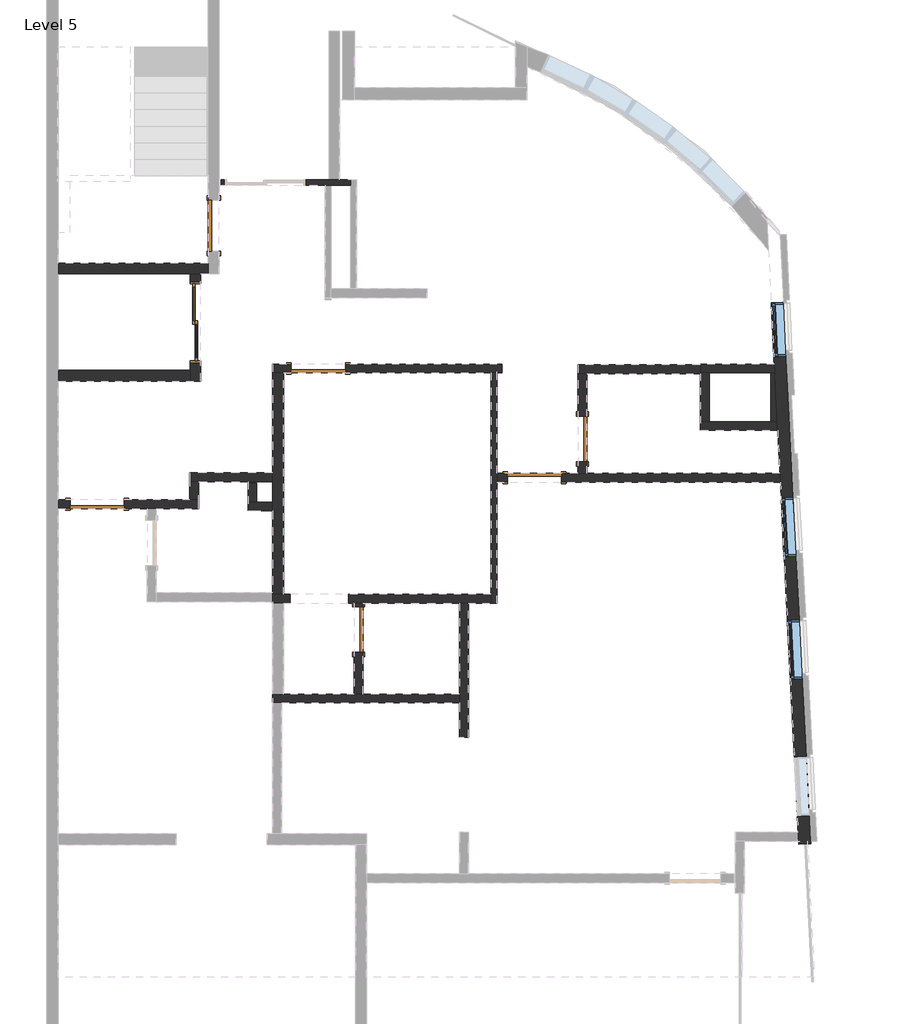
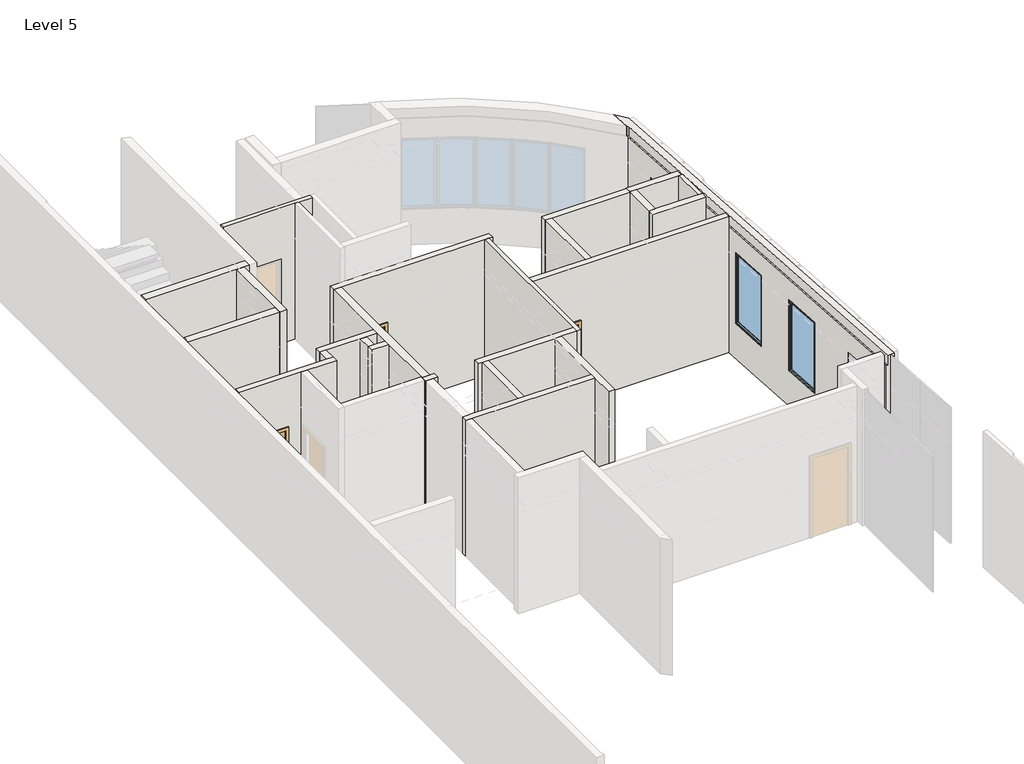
# One storey, part 3 of 5: 25 walls, 7 doors, 3 windows.
"""IFC4 building model written with IfcOpenShell, lengths in millimetres."""

from ifc_helpers import new_model, si_unit, frame, origin, place, context, project, spatial, polyline, circle_curve, outline, extrude, faceted_brep, transform, mapped, element, save
from ifc_brep_helpers import plane_surface, cylinder_surface, revolved_surface, advanced_brep
from components import m_single_flush_0762_x_2134mm_1533e4c5, m_single_flush_0762_x_2134mm_8c18b9de, m_single_flush_0864_x_2032mm_7823a673, m_single_flush_0915_x_2032mm_11c03dd0, m_single_flush_0915_x_2134mm_138fd904, sliding_door_2_panel_aus_f73f6a40, m_fixed_0915_x_1830mm_5d6e8bc1, m_fixed_1000_x_1830mm_2_3397196e

model = new_model("IFC4")

# Units and contexts
model_context = context("Model", 3, world=origin())
ifc_project = project(units=[si_unit("LENGTHUNIT", "METRE", prefix="MILLI")], contexts=[model_context])

# Site, building, storey
site = spatial("IfcSite", under=ifc_project)
building = spatial("IfcBuilding", under=site)
storey = spatial("IfcBuildingStorey", under=building, Name="Level 5", Elevation=18500.0)

# Doors
placement = place(None, origin())
m_single_flush_0762_x_2134mm_shape = m_single_flush_0762_x_2134mm_1533e4c5(model_context)
element("IfcDoor", 1, ObjectType="M_Single-Flush : 0762 x 2134mm", at=placement, inside=storey, context=model_context, shape_type="MappedRepresentation", body=[
    mapped(m_single_flush_0762_x_2134mm_shape, transform((8794.9578779, 5730.2927029, 18500.0), x_axis=(0.0, -1.0, 0.0), y_axis=(1.0, 0.0, 0.0), z_axis=(0.0, 0.0, 1.0))),
])
m_single_flush_0762_x_2134mm_2_shape = m_single_flush_0762_x_2134mm_8c18b9de(model_context)
element("IfcDoor", 2, ObjectType="M_Single-Flush : 0762 x 2134mm", at=placement, inside=storey, context=model_context, shape_type="MappedRepresentation", body=[
    mapped(m_single_flush_0762_x_2134mm_2_shape, transform((5014.9578779, 2515.8778064, 18500.0), x_axis=(0.0, 1.0, 0.0), y_axis=(-1.0, 0.0, 0.0), z_axis=(0.0, 0.0, 1.0))),
])
m_single_flush_0864_x_2032mm_shape = m_single_flush_0864_x_2032mm_7823a673(model_context)
element("IfcDoor", 3, ObjectType="M_Single-Flush : 0864 x 2032mm", at=placement, inside=storey, context=model_context, shape_type="MappedRepresentation", body=[
    mapped(m_single_flush_0864_x_2032mm_shape, transform((2571.8607589, 9328.8748746, 18500.0), x_axis=(0.0, -1.0, 0.0), y_axis=(1.0, 0.0, 0.0), z_axis=(0.0, 0.0, 1.0))),
])
m_single_flush_0915_x_2032mm_shape = m_single_flush_0915_x_2032mm_11c03dd0(model_context)
element("IfcDoor", 4, ObjectType="M_Single-Flush : 0915 x 2032mm", at=placement, inside=storey, context=model_context, shape_type="MappedRepresentation", body=[
    mapped(m_single_flush_0915_x_2032mm_shape, transform((7987.4578779, 5074.2927029, 18500.0), x_axis=(-1.0, 0.0, 0.0), y_axis=(0.0, -1.0, 0.0), z_axis=(0.0, 0.0, 1.0))),
])
m_single_flush_0915_x_2134mm_shape = m_single_flush_0915_x_2134mm_138fd904(model_context)
element("IfcDoor", 5, ObjectType="M_Single-Flush : 0915 x 2134mm", at=placement, inside=storey, context=model_context, shape_type="MappedRepresentation", body=[
    mapped(m_single_flush_0915_x_2134mm_shape, transform((607.4578696, 4631.8830582, 18500.0), x_axis=(-1.0, 0.0, 0.0), y_axis=(0.0, -1.0, 0.0), z_axis=(0.0, 0.0, 1.0))),
])
element("IfcDoor", 6, ObjectType="M_Single-Flush : 0915 x 2134mm", at=placement, inside=storey, context=model_context, shape_type="MappedRepresentation", body=[
    mapped(m_single_flush_0915_x_2134mm_shape, transform((4337.4578779, 6919.2927825, 18500.0), x_axis=(-1.0, 0.0, 0.0), y_axis=(0.0, -1.0, 0.0), z_axis=(0.0, 0.0, 1.0))),
])
sliding_door_2_panel_aus_shape = sliding_door_2_panel_aus_f73f6a40(model_context)
element("IfcDoor", 7, ObjectType="Sliding Door - 2 Panel (AUS) : elavator door", at=placement, inside=storey, context=model_context, shape_type="MappedRepresentation", body=[
    mapped(sliding_door_2_panel_aus_shape, transform((2260.0654712, 7782.6328884, 18500.0), x_axis=(0.0, -1.0, 0.0), y_axis=(1.0, 0.0, 0.0), z_axis=(0.0, 0.0, 1.0))),
])

# Walls
element("IfcWall", 8, ObjectType="Generic - 15cm-granit&gypsum", at=placement, inside=storey, context=model_context, shape_type="SweptSolid", body=[
    extrude(outline(polyline([(5349.2927029, 20634.0), (5349.2927029, 18500.0), (5149.2927029, 18500.0), (5149.2927029, 22000.0), (6830.3684627, 22000.0), (6830.3684627, 18500.0), (6111.2927029, 18500.0), (6111.2927029, 20634.0), (5349.2927029, 20634.0)])), frame((8719.9578779, 0.0, 0.0), z_axis=(1.0, 0.0, 0.0), x_axis=(0.0, 1.0, 0.0)), (0.0, 0.0, 1.0), 150.0),
])
element("IfcWall", 9, ObjectType="Generic - 15cm-gypsu-2boith", at=placement, inside=storey, context=model_context, shape_type="Brep", body=[
    faceted_brep([(12034.2942913, 6994.2927825, 18500.0), (10782.6929286, 6994.2927825, 18500.0), (10782.6929286, 6994.2927825, 22000.0), (12034.2942913, 6994.2927825, 22000.0), (12041.9294162, 6844.2927825, 18500.0), (12041.9294162, 6844.2927825, 22000.0), (11974.9265269, 6844.2927825, 22000.0), (10938.049349, 6844.2927825, 22000.0), (10788.049349, 6844.2927825, 22000.0), (10782.6929286, 6844.2927825, 22000.0), (10782.6929286, 6844.2927825, 18500.0), (10788.049349, 6844.2927825, 18500.0), (10938.049349, 6844.2927825, 18500.0), (11974.9265269, 6844.2927825, 18500.0), (10782.6929286, 6980.3684627, 18500.0), (10782.6929286, 6980.3684627, 22000.0)], [[[0, 1, 2, 3]], [[4, 5, 6, 7, 8, 9, 10, 11, 12, 13]], [[1, 0, 4, 13, 12, 11, 10, 14]], [[2, 1, 14, 10, 9, 15]], [[3, 2, 15, 9, 8, 7, 6, 5]], [[0, 3, 5, 4]]]),
])
element("IfcWall", 10, ObjectType="Generic - 15cm-granit&gypsum", at=placement, inside=storey, context=model_context, shape_type="Brep", body=[
    faceted_brep([(7529.9578779, 5149.2927029, 20532.0), (7529.9578779, 5149.2927029, 18500.0), (7349.9578779, 5149.2927029, 18500.0), (7349.9578779, 5149.2927029, 22000.0), (8719.9578779, 5149.2927029, 22000.0), (8869.9578779, 5149.2927029, 22000.0), (12128.2063311, 5149.2927029, 22000.0), (12128.2063311, 5149.2927029, 18500.0), (8869.9578779, 5149.2927029, 18500.0), (8719.9578779, 5149.2927029, 18500.0), (8444.9578779, 5149.2927029, 18500.0), (8444.9578779, 5149.2927029, 20532.0), (7349.9578779, 4999.2927029, 18500.0), (7529.9578779, 4999.2927029, 18500.0), (7529.9578779, 4999.2927029, 20532.0), (8444.9578779, 4999.2927029, 20532.0), (8444.9578779, 4999.2927029, 18500.0), (12135.8414559, 4999.2927029, 18500.0), (12135.8414559, 4999.2927029, 22000.0), (7349.9578779, 4999.2927029, 22000.0)], [[[0, 1, 2, 3, 4, 5, 6, 7, 8, 9, 10, 11]], [[12, 13, 14, 15, 16, 17, 18, 19]], [[2, 1, 13, 12]], [[10, 9, 8, 7, 17, 16]], [[6, 5, 4, 3, 19, 18]], [[7, 6, 18, 17]], [[3, 2, 12, 19]], [[14, 13, 1, 0]], [[15, 14, 0, 11]], [[16, 15, 11, 10]]]),
])
element("IfcWall", 11, ObjectType="Generic - 10cm-gypsu-2boith", at=placement, inside=storey, context=model_context, shape_type="Brep", body=[
    faceted_brep([(7249.9578779, 6844.2927825, 18500.0), (7249.9578779, 3106.8778064, 18500.0), (7249.9578779, 2956.8778064, 18500.0), (7249.9578779, 2956.8778064, 22000.0), (7249.9578779, 3106.8778064, 22000.0), (7249.9578779, 6844.2927825, 22000.0), (7349.9578779, 6844.2927825, 18500.0), (7349.9578779, 6844.2927825, 22000.0), (7349.9578779, 5149.2927029, 22000.0), (7349.9578779, 4999.2927029, 22000.0), (7349.9578779, 2956.8778064, 22000.0), (7349.9578779, 2956.8778064, 18500.0), (7349.9578779, 4999.2927029, 18500.0), (7349.9578779, 5149.2927029, 18500.0)], [[[0, 1, 2, 3, 4, 5]], [[6, 7, 8, 9, 10, 11, 12, 13]], [[2, 1, 0, 6, 13, 12, 11]], [[5, 4, 3, 10, 9, 8, 7]], [[3, 2, 11, 10]], [[0, 5, 7, 6]]]),
])
element("IfcWall", 12, ObjectType="Generic - 15cm-granit&gypsum", at=placement, inside=storey, context=model_context, shape_type="Brep", body=[
    faceted_brep([(7249.9578779, 3106.8778064, 18500.0), (4849.9578779, 3106.8778064, 18500.0), (4849.9578779, 3106.8778064, 22000.0), (7249.9578779, 3106.8778064, 22000.0), (7249.9578779, 2956.8778064, 18500.0), (7249.9578779, 2956.8778064, 22000.0), (6869.9578779, 2956.8778064, 22000.0), (6719.9578779, 2956.8778064, 22000.0), (5089.9578779, 2956.8778064, 22000.0), (4939.9578779, 2956.8778064, 22000.0), (4849.9578779, 2956.8778064, 22000.0), (4849.9578779, 2956.8778064, 18500.0), (4939.9578779, 2956.8778064, 18500.0), (5089.9578779, 2956.8778064, 18500.0), (6719.9578779, 2956.8778064, 18500.0), (6869.9578779, 2956.8778064, 18500.0)], [[[0, 1, 2, 3]], [[4, 5, 6, 7, 8, 9, 10, 11, 12, 13, 14, 15]], [[1, 0, 4, 15, 14, 13, 12, 11]], [[2, 1, 11, 10]], [[3, 2, 10, 9, 8, 7, 6, 5]], [[0, 3, 5, 4]]]),
])
element("IfcWall", 13, ObjectType="Generic - 15cm-granit&gypsum", at=placement, inside=storey, context=model_context, shape_type="Brep", body=[
    faceted_brep([(6719.9578779, 1426.8778064, 18500.0), (5089.9578779, 1426.8778064, 18500.0), (4939.9578779, 1426.8778064, 18500.0), (3749.9578779, 1426.8778064, 18500.0), (3569.9578779, 1426.8778064, 18500.0), (3569.9578779, 1426.8778064, 22000.0), (3749.9578779, 1426.8778064, 22000.0), (4939.9578779, 1426.8778064, 22000.0), (5089.9578779, 1426.8778064, 22000.0), (6719.9578779, 1426.8778064, 22000.0), (6719.9578779, 1276.8778064, 18500.0), (6719.9578779, 1276.8778064, 22000.0), (3719.9578779, 1276.8778064, 22000.0), (3569.9578779, 1276.8778064, 22000.0), (3569.9578779, 1276.8778064, 18500.0), (3719.9578779, 1276.8778064, 18500.0)], [[[0, 1, 2, 3, 4, 5, 6, 7, 8, 9]], [[10, 11, 12, 13, 14, 15]], [[4, 3, 2, 1, 0, 10, 15, 14]], [[9, 8, 7, 6, 5, 13, 12, 11]], [[0, 9, 11, 10]], [[5, 4, 14, 13]]]),
])
element("IfcWall", 14, ObjectType="Generic - 15cm-granit&gypsum", at=placement, inside=storey, context=model_context, shape_type="Brep", body=[
    faceted_brep([(6719.9578779, 2956.8778064, 18500.0), (6719.9578779, 1426.8778064, 18500.0), (6719.9578779, 1276.8778064, 18500.0), (6719.9578779, 696.0452702, 18500.0), (6719.9578779, 696.0452702, 22000.0), (6719.9578779, 1276.8778064, 22000.0), (6719.9578779, 1426.8778064, 22000.0), (6719.9578779, 2956.8778064, 22000.0), (6869.9578779, 2956.8778064, 18500.0), (6869.9578779, 2956.8778064, 22000.0), (6869.9578779, 696.0452702, 22000.0), (6869.9578779, 696.0452702, 18500.0)], [[[0, 1, 2, 3, 4, 5, 6, 7]], [[8, 9, 10, 11]], [[3, 2, 1, 0, 8, 11]], [[4, 3, 11, 10]], [[7, 6, 5, 4, 10, 9]], [[0, 7, 9, 8]]]),
])
element("IfcWall", 15, ObjectType="Generic - 18cm-gypsu-2boith 2", at=placement, inside=storey, context=model_context, shape_type="Brep", body=[
    faceted_brep([(3569.9578779, 6844.2927825, 18500.0), (3569.9578779, 5156.8860701, 18500.0), (3569.9578779, 5006.8860701, 18500.0), (3569.9578779, 4666.8864855, 18500.0), (3569.9578779, 4516.8864855, 18500.0), (3569.9578779, 3106.8778064, 18500.0), (3569.9578779, 3106.8778064, 22000.0), (3569.9578779, 4516.8864855, 22000.0), (3569.9578779, 4666.8864855, 22000.0), (3569.9578779, 5006.8860701, 22000.0), (3569.9578779, 5156.8860701, 22000.0), (3569.9578779, 6844.2927825, 22000.0), (3749.9578779, 6844.2927825, 18500.0), (3749.9578779, 6844.2927825, 22000.0), (3749.9578779, 3106.8778064, 22000.0), (3749.9578779, 3106.8778064, 18500.0)], [[[0, 1, 2, 3, 4, 5, 6, 7, 8, 9, 10, 11]], [[12, 13, 14, 15]], [[5, 4, 3, 2, 1, 0, 12, 15]], [[11, 10, 9, 8, 7, 6, 14, 13]], [[6, 5, 15, 14]], [[0, 11, 13, 12]]]),
])
element("IfcWall", 16, ObjectType="Generic - 10cm-gypsu-2boith", at=placement, inside=storey, context=model_context, shape_type="Brep", body=[
    faceted_brep([(2699.9587442, 10106.8748959, 18500.0), (2699.9587442, 10106.8748959, 22000.0), (4519.9587688, 10106.8748959, 22000.0), (4699.9587688, 10106.8748959, 22000.0), (4879.9402277, 10106.8748959, 22000.0), (4879.9402277, 10106.8748959, 18500.0), (4699.9587688, 10106.8748959, 18500.0), (4519.9587688, 10106.8748959, 18500.0), (4129.6769958, 10106.8748959, 18500.0), (4129.6769958, 10106.8748959, 20683.0), (2749.6769958, 10106.8748959, 20683.0), (2749.6769958, 10106.8748959, 18500.0), (2699.9587442, 10006.8748959, 22000.0), (2699.9587442, 10006.8748959, 18500.0), (2749.6769958, 10006.8748959, 18500.0), (2749.6769958, 10006.8748959, 20683.0), (4129.6769958, 10006.8748959, 20683.0), (4129.6769958, 10006.8748959, 18500.0), (4449.2779066, 10006.8748959, 18500.0), (4549.2779066, 10006.8748959, 18500.0), (4879.9402277, 10006.8748959, 18500.0), (4879.9402277, 10006.8748959, 22000.0), (4549.2779066, 10006.8748959, 22000.0), (4449.2779066, 10006.8748959, 22000.0)], [[[0, 1, 2, 3, 4, 5, 6, 7, 8, 9, 10, 11]], [[12, 13, 14, 15, 16, 17, 18, 19, 20, 21, 22, 23]], [[13, 0, 11, 14]], [[5, 20, 19, 18, 17, 8, 7, 6]], [[1, 0, 13, 12]], [[4, 3, 2, 1, 12, 23, 22, 21]], [[5, 4, 21, 20]], [[16, 9, 8, 17]], [[9, 16, 15, 10]], [[10, 15, 14, 11]]]),
])
element("IfcWall", 17, ObjectType="Generic - 18cm-gypsu-2boith 2", at=placement, inside=storey, context=model_context, shape_type="SweptSolid", body=[
    extrude(outline(polyline([(-50.0421304, 8696.8748746), (2481.8607589, 8696.8748746), (2481.8607589, 8516.8748746), (-50.0421304, 8516.8748746), (-50.0421304, 8696.8748746)])), frame((0.0, 0.0, 18500.0), z_axis=(0.0, 0.0, 1.0), x_axis=(1.0, 0.0, 0.0)), (0.0, 0.0, 1.0), 3500.0),
])
element("IfcWall", 18, ObjectType="Generic - 18cm-gypsu-2boith 2", at=placement, inside=storey, context=model_context, shape_type="Brep", body=[
    faceted_brep([(2170.0654712, 6706.8748838, 22000.0), (2170.0654712, 6886.8748838, 22000.0), (2170.0654712, 8506.8748906, 22000.0), (2170.0654712, 8506.8748906, 18500.0), (2170.0654712, 8386.8748872, 18500.0), (2170.0654712, 8386.8748872, 20683.0), (2170.0654712, 7006.8748872, 20683.0), (2170.0654712, 7006.8748872, 18500.0), (2170.0654712, 6886.8748838, 18500.0), (2170.0654712, 6706.8748838, 18500.0), (2350.0654712, 8506.8748906, 22000.0), (2350.0654712, 6706.8748838, 22000.0), (2350.0654712, 6706.8748838, 18500.0), (2350.0654712, 7006.8748872, 18500.0), (2350.0654712, 7006.8748872, 20683.0), (2350.0654712, 8386.8748872, 20683.0), (2350.0654712, 8386.8748872, 18500.0), (2350.0654712, 8506.8748906, 18500.0)], [[[0, 1, 2, 3, 4, 5, 6, 7, 8, 9]], [[10, 11, 12, 13, 14, 15, 16, 17]], [[3, 17, 16, 4]], [[12, 9, 8, 7, 13]], [[2, 1, 0, 11, 10]], [[3, 2, 10, 17]], [[0, 9, 12, 11]], [[15, 5, 4, 16]], [[5, 15, 14, 6]], [[6, 14, 13, 7]]]),
])
element("IfcWall", 19, ObjectType="Generic - 18cm-gypsu-2boith 2", at=placement, inside=storey, context=model_context, shape_type="SweptSolid", body=[
    extrude(outline(polyline([(-50.0421304, 6886.8748838), (2170.0654712, 6886.8748838), (2170.0654712, 6706.8748838), (-50.0421304, 6706.8748838), (-50.0421304, 6886.8748838)])), frame((0.0, 0.0, 18500.0), z_axis=(0.0, 0.0, 1.0), x_axis=(1.0, 0.0, 0.0)), (0.0, 0.0, 1.0), 3500.0),
])
element("IfcWall", 20, ObjectType="Generic - 15cm-granit&gypsum", at=placement, inside=storey, context=model_context, shape_type="Brep", body=[
    faceted_brep([(12077.3702251, 6025.0705769, 18500.0), (12074.9265269, 6025.0705769, 18500.0), (11974.9265269, 6025.0705769, 18500.0), (10938.049349, 6025.0705769, 18500.0), (10788.049349, 6025.0705769, 18500.0), (10788.049349, 6025.0705769, 22000.0), (10938.049349, 6025.0705769, 22000.0), (11974.9265269, 6025.0705769, 22000.0), (12074.9265269, 6025.0705769, 22000.0), (12077.3702251, 6025.0705769, 22000.0), (12077.3702251, 5875.0705769, 18500.0), (12077.3702251, 5875.0705769, 22000.0), (10788.049349, 5875.0705769, 22000.0), (10788.049349, 5875.0705769, 18500.0)], [[[0, 1, 2, 3, 4, 5, 6, 7, 8, 9]], [[10, 11, 12, 13]], [[4, 3, 2, 1, 0, 10, 13]], [[9, 8, 7, 6, 5, 12, 11]], [[0, 9, 11, 10]], [[5, 4, 13, 12]]]),
])
element("IfcWall", 21, ObjectType="Generic - 15cm-granit&gypsum", at=placement, inside=storey, context=model_context, shape_type="SweptSolid", body=[
    extrude(outline(polyline([(10938.049349, 6844.2927825), (10938.049349, 6025.0705769), (10788.049349, 6025.0705769), (10788.049349, 6844.2927825), (10938.049349, 6844.2927825)])), frame((0.0, 0.0, 18500.0), z_axis=(0.0, 0.0, 1.0), x_axis=(1.0, 0.0, 0.0)), (0.0, 0.0, 1.0), 3500.0),
])
element("IfcWall", 22, ObjectType="Generic - 10cm-gypsu-2boith", at=placement, inside=storey, context=model_context, shape_type="Brep", body=[
    faceted_brep([(12074.9265269, 6025.0705769, 18500.0), (12074.9265269, 6844.2927825, 18500.0), (12074.9265269, 6844.2927825, 22000.0), (12074.9265269, 6025.0705769, 22000.0), (11974.9265269, 6025.0705769, 18500.0), (11974.9265269, 6025.0705769, 22000.0), (11974.9265269, 6844.2927825, 22000.0), (11974.9265269, 6844.2927825, 18500.0), (12041.9294162, 6844.2927825, 18500.0), (12041.9294162, 6844.2927825, 22000.0)], [[[0, 1, 2, 3]], [[4, 5, 6, 7]], [[1, 0, 4, 7, 8]], [[3, 2, 9, 6, 5]], [[0, 3, 5, 4]], [[2, 1, 8, 7, 6, 9]]]),
])
element("IfcWall", 23, ObjectType="Generic - 15cm-granit&gypsum", at=placement, inside=storey, context=model_context, shape_type="SweptSolid", body=[
    extrude(outline(polyline([(2956.8778064, 18500.0), (2896.8778064, 18500.0), (2896.8778064, 20634.0), (2134.8778064, 20634.0), (2134.8778064, 18500.0), (1426.8778064, 18500.0), (1426.8778064, 22000.0), (2956.8778064, 22000.0), (2956.8778064, 18500.0)])), frame((4939.9578779, 0.0, 0.0), z_axis=(1.0, 0.0, 0.0), x_axis=(0.0, 1.0, 0.0)), (0.0, 0.0, 1.0), 150.0),
])
element("IfcWall", 24, ObjectType="Generic - 15cm-granit&gypsum", at=placement, inside=storey, context=model_context, shape_type="Brep", body=[
    faceted_brep([(-50.0421304, 4556.8830582, 18500.0), (149.9578696, 4556.8830582, 18500.0), (149.9578696, 4556.8830582, 20634.0), (1064.9578696, 4556.8830582, 20634.0), (1064.9578696, 4556.8830582, 18500.0), (1449.9578776, 4556.8830582, 18500.0), (1599.9578776, 4556.8830582, 18500.0), (2319.9578779, 4556.8830582, 18500.0), (2319.9578779, 4556.8830582, 22000.0), (1599.9578776, 4556.8830582, 22000.0), (1449.9578776, 4556.8830582, 22000.0), (-50.0421304, 4556.8830582, 22000.0), (149.9578696, 4706.8830582, 20634.0), (149.9578696, 4706.8830582, 18500.0), (-50.0421304, 4706.8830582, 18500.0), (-50.0421304, 4706.8830582, 22000.0), (2169.9578779, 4706.8830582, 22000.0), (2319.9578779, 4706.8830582, 22000.0), (2319.9578779, 4706.8830582, 18500.0), (2169.9578779, 4706.8830582, 18500.0), (1064.9578696, 4706.8830582, 18500.0), (1064.9578696, 4706.8830582, 20634.0)], [[[0, 1, 2, 3, 4, 5, 6, 7, 8, 9, 10, 11]], [[12, 13, 14, 15, 16, 17, 18, 19, 20, 21]], [[14, 13, 1, 0]], [[20, 19, 18, 7, 6, 5, 4]], [[11, 10, 9, 8, 17, 16, 15]], [[0, 11, 15, 14]], [[8, 7, 18, 17]], [[2, 1, 13, 12]], [[3, 2, 12, 21]], [[4, 3, 21, 20]]]),
])
element("IfcWall", 25, ObjectType="Generic - 15cm-granit&gypsum", at=placement, inside=storey, context=model_context, shape_type="Brep", body=[
    faceted_brep([(2169.9578779, 5006.8860701, 18500.0), (2319.9578779, 5006.8860701, 18500.0), (3569.9578779, 5006.8860701, 18500.0), (3569.9578779, 5006.8860701, 22000.0), (2319.9578779, 5006.8860701, 22000.0), (2169.9578779, 5006.8860701, 22000.0), (2169.9578779, 5156.8860701, 18500.0), (2169.9578779, 5156.8860701, 22000.0), (3569.9578779, 5156.8860701, 22000.0), (3569.9578779, 5156.8860701, 18500.0)], [[[0, 1, 2, 3, 4, 5]], [[6, 7, 8, 9]], [[2, 1, 0, 6, 9]], [[5, 4, 3, 8, 7]], [[0, 5, 7, 6]], [[3, 2, 9, 8]]]),
])
element("IfcWall", 26, ObjectType="Generic - 15cm-granit&gypsum", at=placement, inside=storey, context=model_context, shape_type="SweptSolid", body=[
    extrude(outline(polyline([(2319.9578779, 5006.8860701), (2319.9578779, 4706.8830582), (2169.9578779, 4706.8830582), (2169.9578779, 5006.8860701), (2319.9578779, 5006.8860701)])), frame((0.0, 0.0, 18500.0), z_axis=(0.0, 0.0, 1.0), x_axis=(1.0, 0.0, 0.0)), (0.0, 0.0, 1.0), 3500.0),
])
element("IfcWall", 27, ObjectType="Generic - 15cm-granit&gypsum", at=placement, inside=storey, context=model_context, shape_type="Brep", body=[
    faceted_brep([(3149.9574416, 4516.8864855, 18500.0), (3569.9578779, 4516.8864855, 18500.0), (3569.9578779, 4516.8864855, 22000.0), (3149.9574416, 4516.8864855, 22000.0), (3149.9574416, 4666.8864855, 18500.0), (3149.9574416, 4666.8864855, 22000.0), (3299.9574416, 4666.8864855, 22000.0), (3569.9578779, 4666.8864855, 22000.0), (3569.9578779, 4666.8864855, 18500.0), (3299.9574416, 4666.8864855, 18500.0)], [[[0, 1, 2, 3]], [[4, 5, 6, 7, 8, 9]], [[1, 0, 4, 9, 8]], [[3, 2, 7, 6, 5]], [[2, 1, 8, 7]], [[0, 3, 5, 4]]]),
])
element("IfcWall", 28, ObjectType="Generic - 15cm-granit&gypsum", at=placement, inside=storey, context=model_context, shape_type="SweptSolid", body=[
    extrude(outline(polyline([(3149.9574416, 4666.8864855), (3149.9574416, 4986.8860701), (3299.9574416, 4986.8860701), (3299.9574416, 4666.8864855), (3149.9574416, 4666.8864855)])), frame((0.0, 0.0, 18500.0), z_axis=(0.0, 0.0, 1.0), x_axis=(1.0, 0.0, 0.0)), (0.0, 0.0, 1.0), 3500.0),
])
element("IfcWall", 29, ObjectType="Generic - 15cm-gypsu-2boith", at=placement, inside=storey, context=model_context, shape_type="Brep", body=[
    faceted_brep([(3879.9578779, 6994.2927825, 20634.0), (3879.9578779, 6994.2927825, 18500.0), (3569.9578779, 6994.2927825, 18500.0), (3569.9578779, 6994.2927825, 22000.0), (7439.9578779, 6994.2927825, 22000.0), (7439.9578779, 6994.2927825, 18500.0), (4794.9578779, 6994.2927825, 18500.0), (4794.9578779, 6994.2927825, 20634.0), (3569.9578779, 6844.2927825, 18500.0), (3749.9578779, 6844.2927825, 18500.0), (3879.9578779, 6844.2927825, 18500.0), (3879.9578779, 6844.2927825, 20634.0), (4794.9578779, 6844.2927825, 20634.0), (4794.9578779, 6844.2927825, 18500.0), (7249.9578779, 6844.2927825, 18500.0), (7349.9578779, 6844.2927825, 18500.0), (7439.9578779, 6844.2927825, 18500.0), (7439.9578779, 6844.2927825, 22000.0), (7349.9578779, 6844.2927825, 22000.0), (7249.9578779, 6844.2927825, 22000.0), (3749.9578779, 6844.2927825, 22000.0), (3569.9578779, 6844.2927825, 22000.0)], [[[0, 1, 2, 3, 4, 5, 6, 7]], [[8, 9, 10, 11, 12, 13, 14, 15, 16, 17, 18, 19, 20, 21]], [[6, 5, 16, 15, 14, 13]], [[2, 1, 10, 9, 8]], [[4, 3, 21, 20, 19, 18, 17]], [[5, 4, 17, 16]], [[11, 10, 1, 0]], [[12, 11, 0, 7]], [[13, 12, 7, 6]], [[3, 2, 8, 21]]]),
])
element("IfcWall", 30, ObjectType="Generic - 15cm-granit&gypsum", at=placement, inside=storey, context=model_context, shape_type="Brep", body=[
    faceted_brep([(8719.9578779, 6830.3684627, 18500.0), (8869.9578779, 6830.3684627, 18500.0), (10782.6929286, 6830.3684627, 18500.0), (10782.6929286, 6830.3684627, 22000.0), (8869.9578779, 6830.3684627, 22000.0), (8719.9578779, 6830.3684627, 22000.0), (8719.9578779, 6980.3684627, 18500.0), (8719.9578779, 6980.3684627, 22000.0), (10782.6929286, 6980.3684627, 22000.0), (10782.6929286, 6980.3684627, 18500.0), (10782.6929286, 6844.2927825, 18500.0), (10782.6929286, 6844.2927825, 22000.0)], [[[0, 1, 2, 3, 4, 5]], [[6, 7, 8, 9]], [[2, 1, 0, 6, 9, 10]], [[3, 2, 10, 9, 8, 11]], [[5, 4, 3, 11, 8, 7]], [[0, 5, 7, 6]]]),
])
element("IfcWall", 31, ObjectType="Generic - 15cm-granit&gypsum", at=placement, inside=storey, context=model_context, shape_type="Brep", body=[
    faceted_brep([(3859.9578779, 3106.8778064, 18500.0), (3749.9578779, 3106.8778064, 18500.0), (3569.9578779, 3106.8778064, 18500.0), (3569.9578779, 3106.8778064, 22000.0), (3749.9578779, 3106.8778064, 22000.0), (3859.9578779, 3106.8778064, 22000.0), (3859.9578779, 2956.8778064, 18500.0), (3859.9578779, 2956.8778064, 22000.0), (3749.9578779, 2956.8778064, 22000.0), (3569.9578779, 2956.8778064, 22000.0), (3569.9578779, 2956.8778064, 18500.0), (3749.9578779, 2956.8778064, 18500.0)], [[[0, 1, 2, 3, 4, 5]], [[6, 7, 8, 9, 10, 11]], [[2, 1, 0, 6, 11, 10]], [[5, 4, 3, 9, 8, 7]], [[0, 5, 7, 6]], [[3, 2, 10, 9]]]),
])
element("IfcWall", 32, ObjectType="Generic - 20cm-gypsum", at=placement, inside=storey, context=model_context, shape_type="AdvancedBrep", body=[
    advanced_brep(
    [(11908.3121492, 9469.3435074, 18500.0), (11936.5482631, 8914.6155682, 18500.0), (12034.2942913, 6994.2927825, 18500.0), (12041.9294162, 6844.2927825, 18500.0), (12128.2063311, 5149.2927029, 18500.0), (12135.8414559, 4999.2927029, 18500.0), (12446.8232818, -1110.2699756, 18500.0), (12446.8232818, -1110.2699756, 21759.0), (11936.5482631, 8914.6155682, 21759.0), (11933.8152789, 8968.3078963, 21759.0), (11933.8152789, 8968.3078963, 22000.0), (11908.3121492, 9469.3435074, 22000.0), (11908.3121492, 9469.3435074, 21245.0), (11910.4512496, 9427.3186475, 21245.0), (11910.4512496, 9427.3186475, 21195.0), (11908.3121492, 9469.3435074, 21195.0), (11908.3121492, 9469.3435074, 19425.0), (11910.4512496, 9427.3186475, 19425.0), (11910.4512496, 9427.3186475, 19375.0), (11908.3121492, 9469.3435074, 19375.0), (12422.6623613, -635.6034658, 19400.0), (12371.8273404, 363.1035987, 19400.0), (12371.8273404, 363.1035987, 21230.0), (12422.6623613, -635.6034658, 21230.0), (12305.2334631, 1671.4098532, 19400.0), (12254.3984422, 2670.1169177, 19400.0), (12254.3984422, 2670.1169177, 21230.0), (12305.2334631, 1671.4098532, 21230.0), (12200.0049698, 3738.7334766, 19400.0), (12149.1699489, 4737.4405411, 19400.0), (12149.1699489, 4737.4405411, 21230.0), (12200.0049698, 3738.7334766, 21230.0), (12028.2494319, 7113.0503572, 19400.0), (11981.7353878, 8026.8673212, 19400.0), (11981.7353878, 8026.8673212, 21230.0), (12028.2494319, 7113.0503572, 21230.0), (12646.5646947, -1100.1029714, 18500.0), (12122.2974145, 9199.675158, 18500.0), (12122.2974145, 9199.675158, 19375.0), (12124.5482533, 9155.45508, 19375.0), (12124.5482533, 9155.45508, 19425.0), (12122.2974145, 9199.675158, 19425.0), (12122.2974145, 9199.675158, 21195.0), (12124.5482533, 9155.45508, 21195.0), (12124.5482533, 9155.45508, 21245.0), (12122.2974145, 9199.675158, 21245.0), (12122.2974145, 9199.675158, 22000.0), (12646.5646947, -1100.1029714, 22000.0), (12571.5687533, 373.2706029, 19400.0), (12622.4037742, -625.4364616, 19400.0), (12622.4037742, -625.4364616, 21230.0), (12571.5687533, 373.2706029, 21230.0), (12454.1398551, 2680.2839218, 19400.0), (12504.974876, 1681.5768573, 19400.0), (12504.974876, 1681.5768573, 21230.0), (12454.1398551, 2680.2839218, 21230.0), (12348.9113618, 4747.6075453, 19400.0), (12399.7463827, 3748.9004808, 19400.0), (12399.7463827, 3748.9004808, 21230.0), (12348.9113618, 4747.6075453, 21230.0), (12181.4768007, 8037.0343254, 19400.0), (12227.9908448, 7123.2173614, 19400.0), (12227.9908448, 7123.2173614, 21230.0), (12181.4768007, 8037.0343254, 21230.0), (12476.7844937, -1108.7449249, 22000.0), (12476.7844937, -1108.7449249, 21759.0), (11966.0468245, 8925.2298708, 22000.0), (11966.0468245, 8925.2298708, 21759.0)],
    [
        (0, 1),
        (1, 2),
        (2, 3),
        (3, 4),
        (4, 5),
        (5, 6),
        (6, 7),
        (7, 8),
        (8, 9),
        (9, 10),
        (10, 11),
        (11, 12),
        (12, 13),
        (13, 14),
        (14, 15),
        (15, 16),
        (16, 17),
        (17, 18),
        (18, 19),
        (19, 0),
        (20, 21),
        (21, 22),
        (22, 23),
        (23, 20),
        (24, 25),
        (25, 26),
        (26, 27),
        (27, 24),
        (28, 29),
        (29, 30),
        (30, 31),
        (31, 28),
        (32, 33),
        (33, 34),
        (34, 35),
        (35, 32),
        (36, 37),
        (37, 38),
        (38, 39),
        (39, 40),
        (40, 41),
        (41, 42),
        (42, 43),
        (43, 44),
        (44, 45),
        (45, 46),
        (46, 47),
        (47, 36),
        (48, 49),
        (49, 50),
        (50, 51),
        (51, 48),
        (52, 53),
        (53, 54),
        (54, 55),
        (55, 52),
        (56, 57),
        (57, 58),
        (58, 59),
        (59, 56),
        (60, 61),
        (61, 62),
        (62, 63),
        (63, 60),
        (48, 21),
        (20, 49),
        (51, 22),
        (50, 23),
        (52, 25),
        (24, 53),
        (55, 26),
        (54, 27),
        (56, 29),
        (28, 57),
        (59, 30),
        (58, 31),
        (60, 33),
        (32, 61),
        (63, 34),
        (62, 35),
        (0, 37, circle_curve(frame((4535.6080259, 3399.2748166, 18500.0), z_axis=(0.0, 0.0, -1.0), x_axis=(0.7954529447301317, 0.6060153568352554, 0.0)), 9550.0)),
        (36, 6),
        (47, 64),
        (64, 65),
        (65, 7),
        (46, 11, circle_curve(frame((4535.6080259, 3399.2748166, 22000.0), z_axis=(0.0, 0.0, 1.0), x_axis=(0.7954529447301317, 0.6060153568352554, 0.0)), 9550.0)),
        (10, 66, circle_curve(frame((4535.6080259, 3399.2748166, 22000.0), z_axis=(0.0, 0.0, -1.0), x_axis=(1.0, 0.0, 0.0)), 9260.0)),
        (66, 64),
        (45, 12, circle_curve(frame((4535.6080259, 3399.2748166, 21245.0), z_axis=(0.0, 0.0, 1.0), x_axis=(0.7954529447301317, 0.6060153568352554, 0.0)), 9550.0)),
        (19, 38, circle_curve(frame((4535.6080259, 3399.2748166, 19375.0), z_axis=(0.0, 0.0, -1.0), x_axis=(0.7954529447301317, 0.6060153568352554, 0.0)), 9550.0)),
        (41, 16, circle_curve(frame((4535.6080259, 3399.2748166, 19425.0), z_axis=(0.0, 0.0, 1.0), x_axis=(0.7954529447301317, 0.6060153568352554, 0.0)), 9550.0)),
        (15, 42, circle_curve(frame((4535.6080259, 3399.2748166, 21195.0), z_axis=(0.0, 0.0, -1.0), x_axis=(0.7954529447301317, 0.6060153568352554, 0.0)), 9550.0)),
        (40, 17, circle_curve(frame((4535.6080259, 3399.2748166, 19425.0), z_axis=(0.0, 0.0, 1.0), x_axis=(0.32740306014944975, 0.9448847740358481, 0.0)), 9525.0)),
        (18, 39, circle_curve(frame((4535.6080259, 3399.2748166, 19375.0), z_axis=(0.0, 0.0, -1.0), x_axis=(0.32740306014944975, 0.9448847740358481, 0.0)), 9525.0)),
        (44, 13, circle_curve(frame((4535.6080259, 3399.2748166, 21245.0), z_axis=(0.0, 0.0, 1.0), x_axis=(0.7339562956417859, 0.6791966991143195, 0.0)), 9525.0)),
        (14, 43, circle_curve(frame((4535.6080259, 3399.2748166, 21195.0), z_axis=(0.0, 0.0, -1.0), x_axis=(0.7339562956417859, 0.6791966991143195, 0.0)), 9525.0)),
        (65, 67),
        (67, 9, circle_curve(frame((4535.6080259, 3399.2748166, 21759.0), z_axis=(0.0, 0.0, 1.0), x_axis=(1.0, 0.0, 0.0)), 9260.0)),
        (67, 66),
    ],
    [
        plane_surface(frame((11929.5360205, 9052.3783941, 18500.0), z_axis=(-0.9987070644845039, -0.05083502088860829, 0.0), x_axis=(0.05083502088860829, -0.9987070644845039, 0.0))),
        plane_surface(frame((12129.2774334, 9062.5453983, 18500.0), z_axis=(0.9987070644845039, 0.05083502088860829, 0.0), x_axis=(-0.05083502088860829, 0.9987070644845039, 0.0))),
        plane_surface(frame((12571.5687533, 373.2706029, 19400.0), z_axis=(0.0, 0.0, 1.0), x_axis=(-0.998707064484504, -0.050835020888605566, 0.0))),
        plane_surface(frame((12571.5687533, 373.2706029, 21230.0), z_axis=(0.050835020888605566, -0.998707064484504, 0.0), x_axis=(-0.998707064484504, -0.050835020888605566, 0.0))),
        plane_surface(frame((12622.4037742, -625.4364616, 21230.0), z_axis=(0.0, 0.0, -1.0), x_axis=(-0.998707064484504, -0.050835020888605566, 0.0))),
        plane_surface(frame((12622.4037742, -625.4364616, 19400.0), z_axis=(-0.050835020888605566, 0.998707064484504, 0.0), x_axis=(-0.998707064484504, -0.050835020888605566, 0.0))),
        plane_surface(frame((12454.1398551, 2680.2839218, 19400.0), z_axis=(0.0, 0.0, 1.0), x_axis=(-0.9987070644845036, -0.050835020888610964, 0.0))),
        plane_surface(frame((12454.1398551, 2680.2839218, 21230.0), z_axis=(0.050835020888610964, -0.9987070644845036, 0.0), x_axis=(-0.9987070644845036, -0.050835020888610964, 0.0))),
        plane_surface(frame((12504.974876, 1681.5768573, 21230.0), z_axis=(0.0, 0.0, -1.0), x_axis=(-0.998707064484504, -0.050835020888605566, 0.0))),
        plane_surface(frame((12504.974876, 1681.5768573, 19400.0), z_axis=(-0.050835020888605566, 0.998707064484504, 0.0), x_axis=(-0.998707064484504, -0.050835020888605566, 0.0))),
        plane_surface(frame((12348.9113618, 4747.6075453, 19400.0), z_axis=(0.0, 0.0, 1.0), x_axis=(-0.998707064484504, -0.050835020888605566, 0.0))),
        plane_surface(frame((12348.9113618, 4747.6075453, 21230.0), z_axis=(0.050835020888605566, -0.998707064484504, 0.0), x_axis=(-0.998707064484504, -0.050835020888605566, 0.0))),
        plane_surface(frame((12399.7463827, 3748.9004808, 21230.0), z_axis=(0.0, 0.0, -1.0), x_axis=(-0.998707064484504, -0.050835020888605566, 0.0))),
        plane_surface(frame((12399.7463827, 3748.9004808, 19400.0), z_axis=(-0.05083502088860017, 0.9987070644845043, 0.0), x_axis=(-0.9987070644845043, -0.05083502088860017, 0.0))),
        plane_surface(frame((12181.4768007, 8037.0343254, 19400.0), z_axis=(0.0, 0.0, 1.0), x_axis=(-0.998707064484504, -0.050835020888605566, 0.0))),
        plane_surface(frame((12181.4768007, 8037.0343254, 21230.0), z_axis=(0.050835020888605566, -0.998707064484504, 0.0), x_axis=(-0.998707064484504, -0.050835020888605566, 0.0))),
        plane_surface(frame((12227.9908448, 7123.2173614, 21230.0), z_axis=(0.0, 0.0, -1.0), x_axis=(-0.998707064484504, -0.050835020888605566, 0.0))),
        plane_surface(frame((12227.9908448, 7123.2173614, 19400.0), z_axis=(-0.050835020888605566, 0.998707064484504, 0.0), x_axis=(-0.998707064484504, -0.050835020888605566, 0.0))),
        plane_surface(frame((11929.5360205, 9052.3783941, 18500.0), z_axis=(0.0, 0.0, -1.0), x_axis=(0.9987070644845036, 0.050835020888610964, 0.0))),
        plane_surface(frame((12446.8232818, -1110.2699756, 18500.0), z_axis=(0.050835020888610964, -0.9987070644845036, 0.0), x_axis=(0.9987070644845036, 0.050835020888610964, 0.0))),
        plane_surface(frame((12446.8232818, -1110.2699756, 22000.0), z_axis=(0.0, 0.0, 1.0), x_axis=(0.9987070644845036, 0.050835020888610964, 0.0))),
        cylinder_surface(frame((4535.6080259, 3399.2748166, 18500.0), z_axis=(0.0, 0.0, 1.0), x_axis=(0.7954529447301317, 0.6060153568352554, 0.0)), 9550.0),
        plane_surface(frame((4535.6080259, 3399.2748166, 19425.0), z_axis=(0.0, 0.0, -1.0), x_axis=(0.32740306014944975, 0.9448847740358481, 0.0))),
        plane_surface(frame((4535.6080259, 3399.2748166, 19375.0), z_axis=(0.0, 0.0, 1.0), x_axis=(0.32740306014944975, 0.9448847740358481, 0.0))),
        cylinder_surface(frame((4535.6080259, 3399.2748166, 19400.0), z_axis=(0.0, 0.0, -1.0), x_axis=(0.32740306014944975, 0.9448847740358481, 0.0)), 9525.0),
        plane_surface(frame((4535.6080259, 3399.2748166, 21245.0), z_axis=(0.0, 0.0, -1.0), x_axis=(0.7339562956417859, 0.6791966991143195, 0.0))),
        plane_surface(frame((4535.6080259, 3399.2748166, 21195.0), z_axis=(0.0, 0.0, 1.0), x_axis=(0.7339562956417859, 0.6791966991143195, 0.0))),
        cylinder_surface(frame((4535.6080259, 3399.2748166, 21220.0), z_axis=(0.0, 0.0, -1.0), x_axis=(0.7339562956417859, 0.6791966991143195, 0.0)), 9525.0),
        plane_surface(frame((-80.0421304, 14944.8648867, 21759.0), z_axis=(0.0, 0.0, 1.0), x_axis=(0.9323005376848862, -0.36168454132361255, 0.0))),
        revolved_surface(polyline([(13795.608025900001, 3399.2748166, 21759.0), (13795.608025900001, 3399.2748166, 22000.0)]), (4535.6080259, 3399.2748166, 22000.0), (0.0, 0.0, -1.0)),
        plane_surface(frame((11966.0468245, 8925.2298708, 21759.0), z_axis=(-0.9987070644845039, -0.05083502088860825, 0.0), x_axis=(0.0, 0.0, 1.0))),
    ],
    [
        (0, [[1, 2, 3, 4, 5, 6, 7, 8, 9, 10, 11, 12, 13, 14, 15, 16, 17, 18, 19, 20], [21, 22, 23, 24], [25, 26, 27, 28], [29, 30, 31, 32], [33, 34, 35, 36]]),
        (1, [[37, 38, 39, 40, 41, 42, 43, 44, 45, 46, 47, 48], [49, 50, 51, 52], [53, 54, 55, 56], [57, 58, 59, 60], [61, 62, 63, 64]]),
        (2, [[-49, 65, -21, 66]]),
        (3, [[-52, 67, -22, -65]]),
        (4, [[-51, 68, -23, -67]]),
        (5, [[-50, -66, -24, -68]]),
        (6, [[-53, 69, -25, 70]]),
        (7, [[-56, 71, -26, -69]]),
        (8, [[-55, 72, -27, -71]]),
        (9, [[-54, -70, -28, -72]]),
        (10, [[-57, 73, -29, 74]]),
        (11, [[-60, 75, -30, -73]]),
        (12, [[-59, 76, -31, -75]]),
        (13, [[-58, -74, -32, -76]]),
        (14, [[-61, 77, -33, 78]]),
        (15, [[-64, 79, -34, -77]]),
        (16, [[-63, 80, -35, -79]]),
        (17, [[-62, -78, -36, -80]]),
        (18, [[-6, -5, -4, -3, -2, -1, 81, -37, 82]]),
        (19, [[-48, 83, 84, 85, -7, -82]]),
        (20, [[-47, 86, -11, 87, 88, -83]]),
        (21, [[-86, -46, 89, -12]]),
        (21, [[-81, -20, 90, -38]]),
        (21, [[91, -16, 92, -42]]),
        (22, [[93, -17, -91, -41]]),
        (23, [[94, -39, -90, -19]]),
        (24, [[-93, -40, -94, -18]]),
        (25, [[95, -13, -89, -45]]),
        (26, [[96, -43, -92, -15]]),
        (27, [[-95, -44, -96, -14]]),
        (28, [[97, 98, -9, -8, -85]]),
        (29, [[99, -87, -10, -98]]),
        (30, [[-99, -97, -84, -88]]),
    ],
),
])

# Windows
m_fixed_0915_x_1830mm_shape = m_fixed_0915_x_1830mm_5d6e8bc1(model_context)
element("IfcWindow", 33, ObjectType="M_Fixed : 0915 x 1830mm", at=placement, inside=storey, context=model_context, shape_type="MappedRepresentation", body=[
    mapped(m_fixed_0915_x_1830mm_shape, transform((12117.8463081, 7575.7031965, 19095.0), x_axis=(-0.05083502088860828, 0.9987070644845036, 0.0), y_axis=(-0.9987070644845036, -0.05083502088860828, 0.0), z_axis=(0.0, 0.0, 1.0))),
])
m_fixed_1000_x_1830mm_2_shape = m_fixed_1000_x_1830mm_2_3397196e(model_context)
element("IfcWindow", 34, ObjectType="M_Fixed : 1000 x 1830mm 2", at=placement, inside=storey, context=model_context, shape_type="MappedRepresentation", body=[
    mapped(m_fixed_1000_x_1830mm_2_shape, transform((12392.6698509, 2176.5077428, 19095.0), x_axis=(-0.05083502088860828, 0.9987070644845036, 0.0), y_axis=(-0.9987070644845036, -0.05083502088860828, 0.0), z_axis=(0.0, 0.0, 1.0))),
])
element("IfcWindow", 35, ObjectType="M_Fixed : 1000 x 1830mm 2", at=placement, inside=storey, context=model_context, shape_type="MappedRepresentation", body=[
    mapped(m_fixed_1000_x_1830mm_2_shape, transform((12287.4413577, 4243.8313663, 19095.0), x_axis=(-0.05083502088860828, 0.9987070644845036, 0.0), y_axis=(-0.9987070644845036, -0.05083502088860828, 0.0), z_axis=(0.0, 0.0, 1.0))),
])

save(model, "model.ifc")
